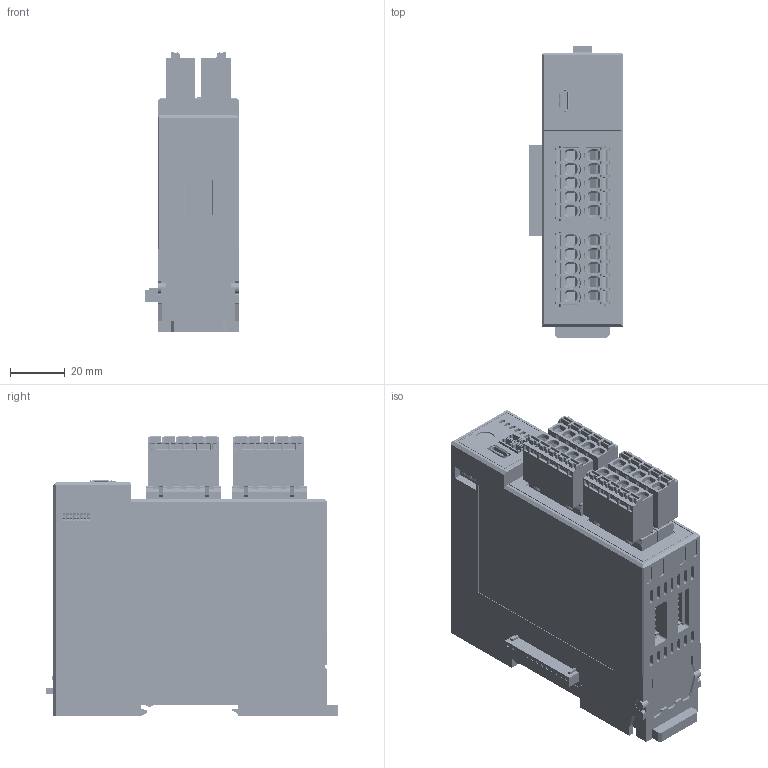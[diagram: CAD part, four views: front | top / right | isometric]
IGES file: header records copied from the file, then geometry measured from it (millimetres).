
Start section: SolidWorks IGES file using analytic representation for surfaces
Bounding box: 34.5 x 106.35 x 102 mm (x, y, z)
Surface area: 54268.1 mm2 (no closed solid volume)
Topology: 0 solids, 0 shells, 6590 faces, 44427 edges, 44351 vertices
Faces by surface type: bspline 4323, revolution 2267
